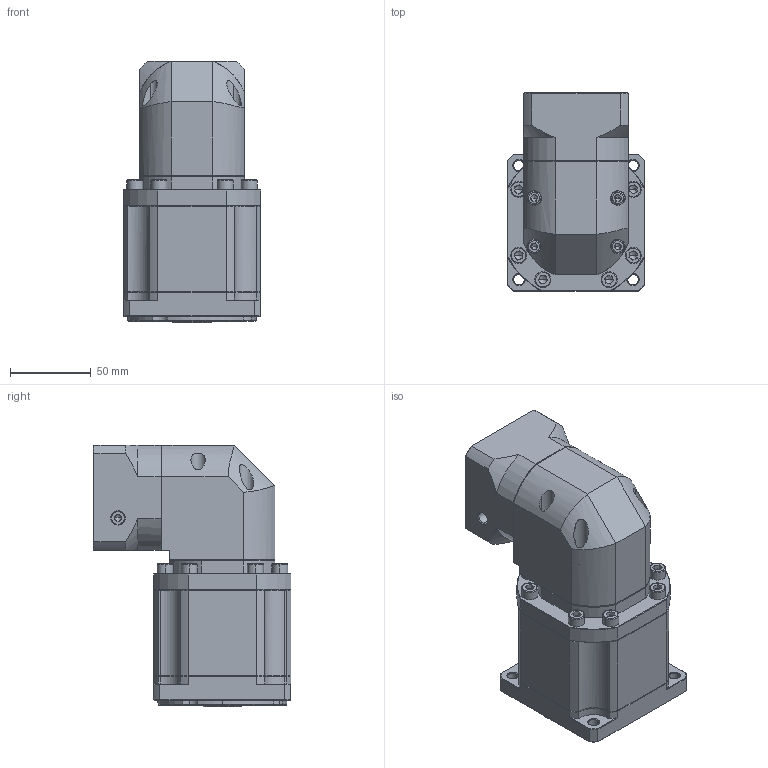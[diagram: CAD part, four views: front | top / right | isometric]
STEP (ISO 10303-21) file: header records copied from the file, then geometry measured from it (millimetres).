
FILE_DESCRIPTION (( 'STEP AP214' ), '1' );
FILE_NAME ('ZBR090-K15-L3-P2-14-60-75-M5.step', '2023-08-19T04:03:07', ( '' ), ( '' ), 'SwSTEP 2.0', 'SolidWorks 2016', '' );
FILE_SCHEMA (( 'AUTOMOTIVE_DESIGN' ));
Length unit declared in the file: millimetre
Products named in the file (1): ZBR090-K15-L3-P2-14-60-75-M5
Bounding box: 85 x 122.7 x 162 mm (x, y, z)
Volume: 918308 mm3; surface area: 105242.1 mm2
Topology: 5 solids, 5 shells, 2388 faces, 6361 edges, 4074 vertices
Faces by surface type: plane 1171, cylinder 418, bspline 416, cone 363, torus 20
Entity records: 123600 total; most frequent: CARTESIAN_POINT 40988, ORIENTED_EDGE 12634, DIRECTION 10226, EDGE_CURVE 6317, VERTEX_POINT 4074, LINE 3990, VECTOR 3990, AXIS2_PLACEMENT_3D 3118
